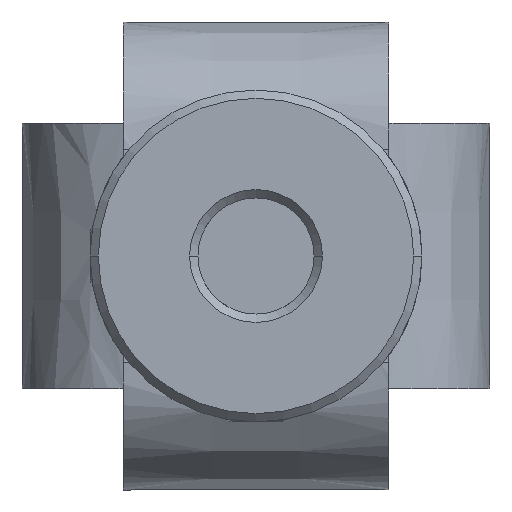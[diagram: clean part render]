
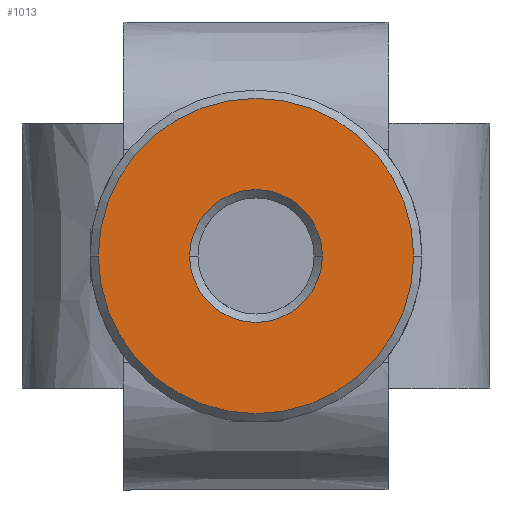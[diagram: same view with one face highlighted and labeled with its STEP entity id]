
A CAD part, front view. The second image highlights one B-rep face of the part: STEP entity #1013.
In plain terms, the highlighted planar face has unit normal (0, -1, 0).
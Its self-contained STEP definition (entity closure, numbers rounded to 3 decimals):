
#217 = CARTESIAN_POINT ( 'NONE',  ( 9.5, -35.24, 0. ) ) ;
#333 = CARTESIAN_POINT ( 'NONE',  ( 0., -35.24, 0. ) ) ;
#859 = DIRECTION ( 'NONE',  ( 0., -1., 0. ) ) ;
#1013 = ADVANCED_FACE ( 'NONE', ( #6371, #2133 ), #7771, .T. ) ;
#1179 = CIRCLE ( 'NONE', #6568, 9.5 ) ;
#1779 = EDGE_LOOP ( 'NONE', ( #3863, #5681 ) ) ;
#2031 = CARTESIAN_POINT ( 'NONE',  ( 0., -35.24, 0. ) ) ;
#2085 = DIRECTION ( 'NONE',  ( -1., 0., 0. ) ) ;
#2112 = CARTESIAN_POINT ( 'NONE',  ( 4., -35.24, 0. ) ) ;
#2133 = FACE_OUTER_BOUND ( 'NONE', #1779, .T. ) ;
#2145 = VERTEX_POINT ( 'NONE', #7242 ) ;
#2368 = DIRECTION ( 'NONE',  ( 0., -1., 0. ) ) ;
#2562 = EDGE_CURVE ( 'NONE', #4882, #4195, #5432, .T. ) ;
#2642 = DIRECTION ( 'NONE',  ( -1., 0., 0. ) ) ;
#2713 = AXIS2_PLACEMENT_3D ( 'NONE', #2031, #3210, #2642 ) ;
#2731 = DIRECTION ( 'NONE',  ( -1., 0., 0. ) ) ;
#3079 = EDGE_CURVE ( 'NONE', #4195, #4882, #3823, .T. ) ;
#3210 = DIRECTION ( 'NONE',  ( 0., 1., 0. ) ) ;
#3399 = AXIS2_PLACEMENT_3D ( 'NONE', #6195, #7520, #2085 ) ;
#3723 = CIRCLE ( 'NONE', #3399, 9.5 ) ;
#3823 = CIRCLE ( 'NONE', #2713, 4. ) ;
#3863 = ORIENTED_EDGE ( 'NONE', *, *, #5487, .T. ) ;
#4195 = VERTEX_POINT ( 'NONE', #5971 ) ;
#4364 = AXIS2_PLACEMENT_3D ( 'NONE', #4793, #6657, #6632 ) ;
#4759 = VERTEX_POINT ( 'NONE', #217 ) ;
#4793 = CARTESIAN_POINT ( 'NONE',  ( 0., -35.24, 0. ) ) ;
#4882 = VERTEX_POINT ( 'NONE', #2112 ) ;
#5432 = CIRCLE ( 'NONE', #4364, 4. ) ;
#5487 = EDGE_CURVE ( 'NONE', #4759, #2145, #1179, .T. ) ;
#5681 = ORIENTED_EDGE ( 'NONE', *, *, #6096, .T. ) ;
#5920 = DIRECTION ( 'NONE',  ( -1., 0., 0. ) ) ;
#5965 = EDGE_LOOP ( 'NONE', ( #7464, #7314 ) ) ;
#5971 = CARTESIAN_POINT ( 'NONE',  ( -4., -35.24, 0. ) ) ;
#6096 = EDGE_CURVE ( 'NONE', #2145, #4759, #3723, .T. ) ;
#6195 = CARTESIAN_POINT ( 'NONE',  ( 0., -35.24, 0. ) ) ;
#6371 = FACE_BOUND ( 'NONE', #5965, .T. ) ;
#6568 = AXIS2_PLACEMENT_3D ( 'NONE', #333, #859, #2731 ) ;
#6632 = DIRECTION ( 'NONE',  ( -1., 0., 0. ) ) ;
#6657 = DIRECTION ( 'NONE',  ( 0., 1., 0. ) ) ;
#6803 = AXIS2_PLACEMENT_3D ( 'NONE', #7743, #2368, #5920 ) ;
#7242 = CARTESIAN_POINT ( 'NONE',  ( -9.5, -35.24, 0. ) ) ;
#7314 = ORIENTED_EDGE ( 'NONE', *, *, #2562, .T. ) ;
#7464 = ORIENTED_EDGE ( 'NONE', *, *, #3079, .T. ) ;
#7520 = DIRECTION ( 'NONE',  ( 0., -1., 0. ) ) ;
#7743 = CARTESIAN_POINT ( 'NONE',  ( 0., -35.24, 0. ) ) ;
#7771 = PLANE ( 'NONE',  #6803 ) ;
